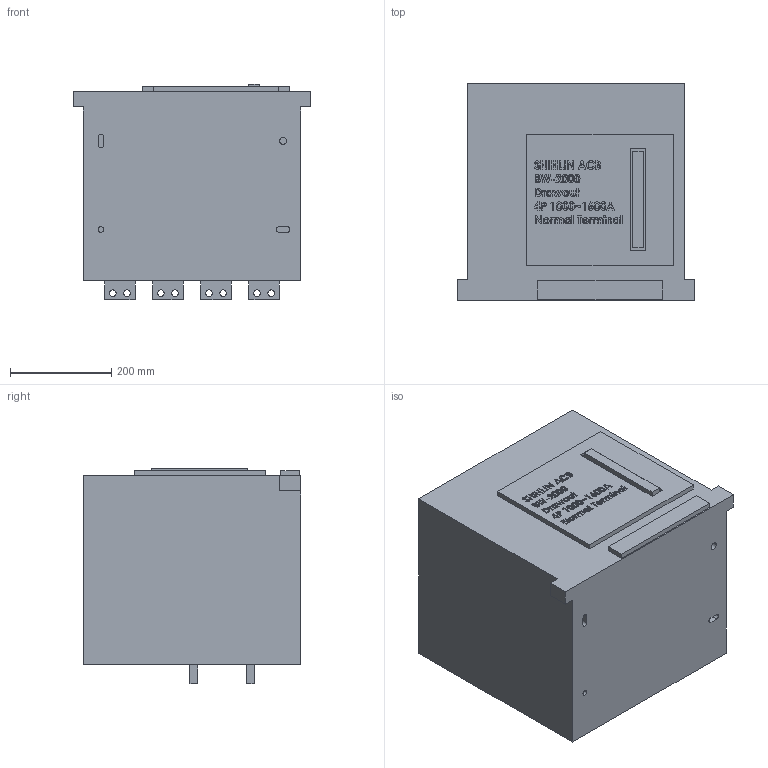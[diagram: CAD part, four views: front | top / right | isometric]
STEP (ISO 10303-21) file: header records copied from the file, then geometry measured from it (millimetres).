
FILE_DESCRIPTION (( 'STEP AP203' ), '1' );
FILE_NAME ('BW-2000-Drawout-4P-1000-1600A-Normal Terminal.STEP', '2016-11-03T01:08:01', ( '' ), ( '' ), 'SwSTEP 2.0', 'SolidWorks 2015', '' );
FILE_SCHEMA (( 'CONFIG_CONTROL_DESIGN' ));
Products named in the file (1): BW-2000-Drawout-4P-1000-1600A-Normal Terminal
Bounding box: 470 x 430 x 426 mm (x, y, z)
Volume: 70130286.3 mm3; surface area: 1129648 mm2
Topology: 1 solids, 1 shells, 737 faces, 1932 edges, 1288 vertices
Faces by surface type: plane 446, bspline 250, cylinder 41
Entity records: 36357 total; most frequent: CARTESIAN_POINT 19656, ORIENTED_EDGE 3864, DIRECTION 2490, EDGE_CURVE 1932, LINE 1350, VECTOR 1350, VERTEX_POINT 1288, EDGE_LOOP 860
